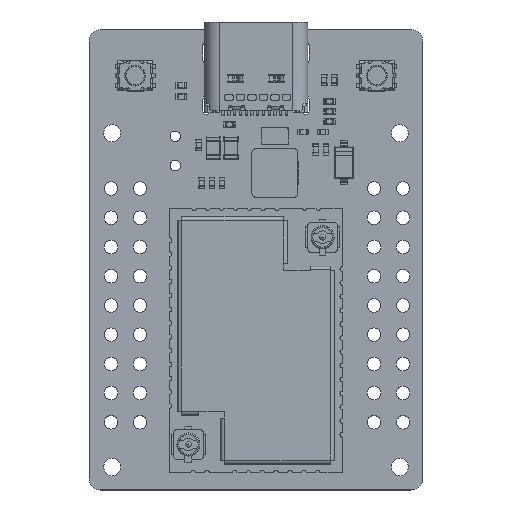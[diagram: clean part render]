
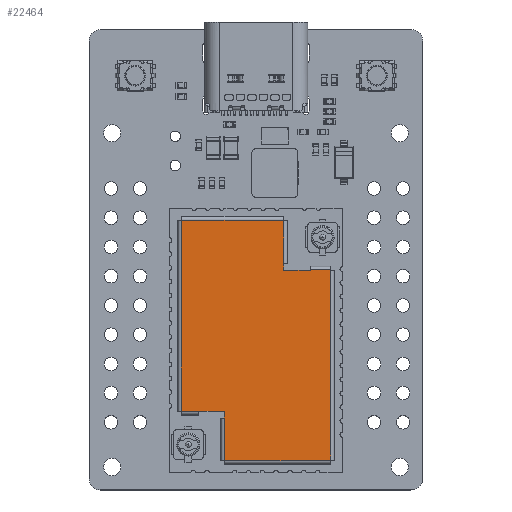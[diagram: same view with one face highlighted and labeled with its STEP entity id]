
A CAD part, top view. The second image highlights one B-rep face of the part: STEP entity #22464.
In plain terms, the highlighted planar face has unit normal (0, 0, 1).
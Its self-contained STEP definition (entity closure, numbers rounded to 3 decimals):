
#21920 = VERTEX_POINT('',#21921);
#21921 = CARTESIAN_POINT('',(2.8,5.38,3.));
#21928 = EDGE_CURVE('',#21920,#21929,#21931,.T.);
#21929 = VERTEX_POINT('',#21930);
#21930 = CARTESIAN_POINT('',(1.05,5.38,3.));
#21931 = LINE('',#21932,#21933);
#21932 = CARTESIAN_POINT('',(2.8,5.38,3.));
#21933 = VECTOR('',#21934,1.);
#21934 = DIRECTION('',(-1.,0.,0.));
#21953 = VERTEX_POINT('',#21954);
#21954 = CARTESIAN_POINT('',(1.,5.43,3.));
#21961 = EDGE_CURVE('',#21953,#21962,#21964,.T.);
#21962 = VERTEX_POINT('',#21963);
#21963 = CARTESIAN_POINT('',(1.,21.9,3.));
#21964 = LINE('',#21965,#21966);
#21965 = CARTESIAN_POINT('',(1.,5.43,3.));
#21966 = VECTOR('',#21967,1.);
#21967 = DIRECTION('',(0.,1.,0.));
#21986 = VERTEX_POINT('',#21987);
#21987 = CARTESIAN_POINT('',(10.21,21.95,3.));
#21996 = VERTEX_POINT('',#21997);
#21997 = CARTESIAN_POINT('',(1.05,21.95,3.));
#22004 = EDGE_CURVE('',#21996,#21986,#22005,.T.);
#22005 = LINE('',#22006,#22007);
#22006 = CARTESIAN_POINT('',(1.05,21.95,3.));
#22007 = VECTOR('',#22008,1.);
#22008 = DIRECTION('',(1.,0.,0.));
#22019 = VERTEX_POINT('',#22020);
#22020 = CARTESIAN_POINT('',(10.26,21.9,3.));
#22027 = EDGE_CURVE('',#22019,#22028,#22030,.T.);
#22028 = VERTEX_POINT('',#22029);
#22029 = CARTESIAN_POINT('',(10.26,18.25,3.));
#22030 = LINE('',#22031,#22032);
#22031 = CARTESIAN_POINT('',(10.26,21.9,3.));
#22032 = VECTOR('',#22033,1.);
#22033 = DIRECTION('',(0.,-1.,0.));
#22068 = EDGE_CURVE('',#22028,#22069,#22071,.T.);
#22069 = VERTEX_POINT('',#22070);
#22070 = CARTESIAN_POINT('',(10.26,17.65,3.));
#22071 = LINE('',#22072,#22073);
#22072 = CARTESIAN_POINT('',(10.26,18.25,3.));
#22073 = VECTOR('',#22074,1.);
#22074 = DIRECTION('',(0.,-1.,0.));
#22111 = VERTEX_POINT('',#22112);
#22112 = CARTESIAN_POINT('',(12.46,17.65,3.));
#22118 = EDGE_CURVE('',#22111,#22119,#22121,.T.);
#22119 = VERTEX_POINT('',#22120);
#22120 = CARTESIAN_POINT('',(12.46,17.7,3.));
#22121 = LINE('',#22122,#22123);
#22122 = CARTESIAN_POINT('',(12.46,17.65,3.));
#22123 = VECTOR('',#22124,1.);
#22124 = DIRECTION('',(0.,1.,0.));
#22174 = VERTEX_POINT('',#22175);
#22175 = CARTESIAN_POINT('',(13.95,17.7,3.));
#22184 = EDGE_CURVE('',#22119,#22174,#22185,.T.);
#22185 = LINE('',#22186,#22187);
#22186 = CARTESIAN_POINT('',(12.46,17.7,3.));
#22187 = VECTOR('',#22188,1.);
#22188 = DIRECTION('',(1.,0.,0.));
#22199 = VERTEX_POINT('',#22200);
#22200 = CARTESIAN_POINT('',(14.,1.1,3.));
#22209 = VERTEX_POINT('',#22210);
#22210 = CARTESIAN_POINT('',(14.,17.65,3.));
#22217 = EDGE_CURVE('',#22209,#22199,#22218,.T.);
#22218 = LINE('',#22219,#22220);
#22219 = CARTESIAN_POINT('',(14.,17.65,3.));
#22220 = VECTOR('',#22221,1.);
#22221 = DIRECTION('',(0.,-1.,0.));
#22232 = VERTEX_POINT('',#22233);
#22233 = CARTESIAN_POINT('',(5.12,1.05,3.));
#22242 = VERTEX_POINT('',#22243);
#22243 = CARTESIAN_POINT('',(13.95,1.05,3.));
#22250 = EDGE_CURVE('',#22242,#22232,#22251,.T.);
#22251 = LINE('',#22252,#22253);
#22252 = CARTESIAN_POINT('',(13.95,1.05,3.));
#22253 = VECTOR('',#22254,1.);
#22254 = DIRECTION('',(-1.,0.,0.));
#22265 = VERTEX_POINT('',#22266);
#22266 = CARTESIAN_POINT('',(5.07,1.1,3.));
#22273 = EDGE_CURVE('',#22265,#22274,#22276,.T.);
#22274 = VERTEX_POINT('',#22275);
#22275 = CARTESIAN_POINT('',(5.07,4.83,3.));
#22276 = LINE('',#22277,#22278);
#22277 = CARTESIAN_POINT('',(5.07,1.1,3.));
#22278 = VECTOR('',#22279,1.);
#22279 = DIRECTION('',(0.,1.,0.));
#22314 = EDGE_CURVE('',#22274,#22315,#22317,.T.);
#22315 = VERTEX_POINT('',#22316);
#22316 = CARTESIAN_POINT('',(5.07,5.43,3.));
#22317 = LINE('',#22318,#22319);
#22318 = CARTESIAN_POINT('',(5.07,4.83,3.));
#22319 = VECTOR('',#22320,1.);
#22320 = DIRECTION('',(0.,1.,0.));
#22464 = ADVANCED_FACE('',(#22465),#22582,.T.);
#22465 = FACE_BOUND('',#22466,.T.);
#22466 = EDGE_LOOP('',(#22467,#22475,#22481,#22482,#22483,#22491,#22497,
    #22498,#22506,#22512,#22513,#22521,#22527,#22528,#22529,#22535,
    #22536,#22537,#22545,#22551,#22552,#22560,#22566,#22567,#22575,
    #22581));
#22467 = ORIENTED_EDGE('',*,*,#22468,.F.);
#22468 = EDGE_CURVE('',#22469,#21920,#22471,.T.);
#22469 = VERTEX_POINT('',#22470);
#22470 = CARTESIAN_POINT('',(2.8,5.43,3.));
#22471 = LINE('',#22472,#22473);
#22472 = CARTESIAN_POINT('',(2.8,5.43,3.));
#22473 = VECTOR('',#22474,1.);
#22474 = DIRECTION('',(0.,-1.,0.));
#22475 = ORIENTED_EDGE('',*,*,#22476,.F.);
#22476 = EDGE_CURVE('',#22315,#22469,#22477,.T.);
#22477 = LINE('',#22478,#22479);
#22478 = CARTESIAN_POINT('',(5.07,5.43,3.));
#22479 = VECTOR('',#22480,1.);
#22480 = DIRECTION('',(-1.,0.,0.));
#22481 = ORIENTED_EDGE('',*,*,#22314,.F.);
#22482 = ORIENTED_EDGE('',*,*,#22273,.F.);
#22483 = ORIENTED_EDGE('',*,*,#22484,.F.);
#22484 = EDGE_CURVE('',#22485,#22265,#22487,.T.);
#22485 = VERTEX_POINT('',#22486);
#22486 = CARTESIAN_POINT('',(5.12,1.1,3.));
#22487 = LINE('',#22488,#22489);
#22488 = CARTESIAN_POINT('',(5.12,1.1,3.));
#22489 = VECTOR('',#22490,1.);
#22490 = DIRECTION('',(-1.,0.,0.));
#22491 = ORIENTED_EDGE('',*,*,#22492,.F.);
#22492 = EDGE_CURVE('',#22232,#22485,#22493,.T.);
#22493 = LINE('',#22494,#22495);
#22494 = CARTESIAN_POINT('',(5.12,1.05,3.));
#22495 = VECTOR('',#22496,1.);
#22496 = DIRECTION('',(0.,1.,0.));
#22497 = ORIENTED_EDGE('',*,*,#22250,.F.);
#22498 = ORIENTED_EDGE('',*,*,#22499,.F.);
#22499 = EDGE_CURVE('',#22500,#22242,#22502,.T.);
#22500 = VERTEX_POINT('',#22501);
#22501 = CARTESIAN_POINT('',(13.95,1.1,3.));
#22502 = LINE('',#22503,#22504);
#22503 = CARTESIAN_POINT('',(13.95,1.1,3.));
#22504 = VECTOR('',#22505,1.);
#22505 = DIRECTION('',(0.,-1.,0.));
#22506 = ORIENTED_EDGE('',*,*,#22507,.F.);
#22507 = EDGE_CURVE('',#22199,#22500,#22508,.T.);
#22508 = LINE('',#22509,#22510);
#22509 = CARTESIAN_POINT('',(14.,1.1,3.));
#22510 = VECTOR('',#22511,1.);
#22511 = DIRECTION('',(-1.,0.,0.));
#22512 = ORIENTED_EDGE('',*,*,#22217,.F.);
#22513 = ORIENTED_EDGE('',*,*,#22514,.F.);
#22514 = EDGE_CURVE('',#22515,#22209,#22517,.T.);
#22515 = VERTEX_POINT('',#22516);
#22516 = CARTESIAN_POINT('',(13.95,17.65,3.));
#22517 = LINE('',#22518,#22519);
#22518 = CARTESIAN_POINT('',(13.95,17.65,3.));
#22519 = VECTOR('',#22520,1.);
#22520 = DIRECTION('',(1.,0.,0.));
#22521 = ORIENTED_EDGE('',*,*,#22522,.F.);
#22522 = EDGE_CURVE('',#22174,#22515,#22523,.T.);
#22523 = LINE('',#22524,#22525);
#22524 = CARTESIAN_POINT('',(13.95,17.7,3.));
#22525 = VECTOR('',#22526,1.);
#22526 = DIRECTION('',(0.,-1.,0.));
#22527 = ORIENTED_EDGE('',*,*,#22184,.F.);
#22528 = ORIENTED_EDGE('',*,*,#22118,.F.);
#22529 = ORIENTED_EDGE('',*,*,#22530,.F.);
#22530 = EDGE_CURVE('',#22069,#22111,#22531,.T.);
#22531 = LINE('',#22532,#22533);
#22532 = CARTESIAN_POINT('',(10.26,17.65,3.));
#22533 = VECTOR('',#22534,1.);
#22534 = DIRECTION('',(1.,0.,0.));
#22535 = ORIENTED_EDGE('',*,*,#22068,.F.);
#22536 = ORIENTED_EDGE('',*,*,#22027,.F.);
#22537 = ORIENTED_EDGE('',*,*,#22538,.F.);
#22538 = EDGE_CURVE('',#22539,#22019,#22541,.T.);
#22539 = VERTEX_POINT('',#22540);
#22540 = CARTESIAN_POINT('',(10.21,21.9,3.));
#22541 = LINE('',#22542,#22543);
#22542 = CARTESIAN_POINT('',(10.21,21.9,3.));
#22543 = VECTOR('',#22544,1.);
#22544 = DIRECTION('',(1.,0.,0.));
#22545 = ORIENTED_EDGE('',*,*,#22546,.F.);
#22546 = EDGE_CURVE('',#21986,#22539,#22547,.T.);
#22547 = LINE('',#22548,#22549);
#22548 = CARTESIAN_POINT('',(10.21,21.95,3.));
#22549 = VECTOR('',#22550,1.);
#22550 = DIRECTION('',(0.,-1.,0.));
#22551 = ORIENTED_EDGE('',*,*,#22004,.F.);
#22552 = ORIENTED_EDGE('',*,*,#22553,.F.);
#22553 = EDGE_CURVE('',#22554,#21996,#22556,.T.);
#22554 = VERTEX_POINT('',#22555);
#22555 = CARTESIAN_POINT('',(1.05,21.9,3.));
#22556 = LINE('',#22557,#22558);
#22557 = CARTESIAN_POINT('',(1.05,21.9,3.));
#22558 = VECTOR('',#22559,1.);
#22559 = DIRECTION('',(0.,1.,0.));
#22560 = ORIENTED_EDGE('',*,*,#22561,.F.);
#22561 = EDGE_CURVE('',#21962,#22554,#22562,.T.);
#22562 = LINE('',#22563,#22564);
#22563 = CARTESIAN_POINT('',(1.,21.9,3.));
#22564 = VECTOR('',#22565,1.);
#22565 = DIRECTION('',(1.,0.,0.));
#22566 = ORIENTED_EDGE('',*,*,#21961,.F.);
#22567 = ORIENTED_EDGE('',*,*,#22568,.F.);
#22568 = EDGE_CURVE('',#22569,#21953,#22571,.T.);
#22569 = VERTEX_POINT('',#22570);
#22570 = CARTESIAN_POINT('',(1.05,5.43,3.));
#22571 = LINE('',#22572,#22573);
#22572 = CARTESIAN_POINT('',(1.05,5.43,3.));
#22573 = VECTOR('',#22574,1.);
#22574 = DIRECTION('',(-1.,0.,0.));
#22575 = ORIENTED_EDGE('',*,*,#22576,.F.);
#22576 = EDGE_CURVE('',#21929,#22569,#22577,.T.);
#22577 = LINE('',#22578,#22579);
#22578 = CARTESIAN_POINT('',(1.05,5.38,3.));
#22579 = VECTOR('',#22580,1.);
#22580 = DIRECTION('',(0.,1.,0.));
#22581 = ORIENTED_EDGE('',*,*,#21928,.F.);
#22582 = PLANE('',#22583);
#22583 = AXIS2_PLACEMENT_3D('',#22584,#22585,#22586);
#22584 = CARTESIAN_POINT('',(7.5,11.5,3.));
#22585 = DIRECTION('',(0.,0.,1.));
#22586 = DIRECTION('',(1.,0.,0.));
